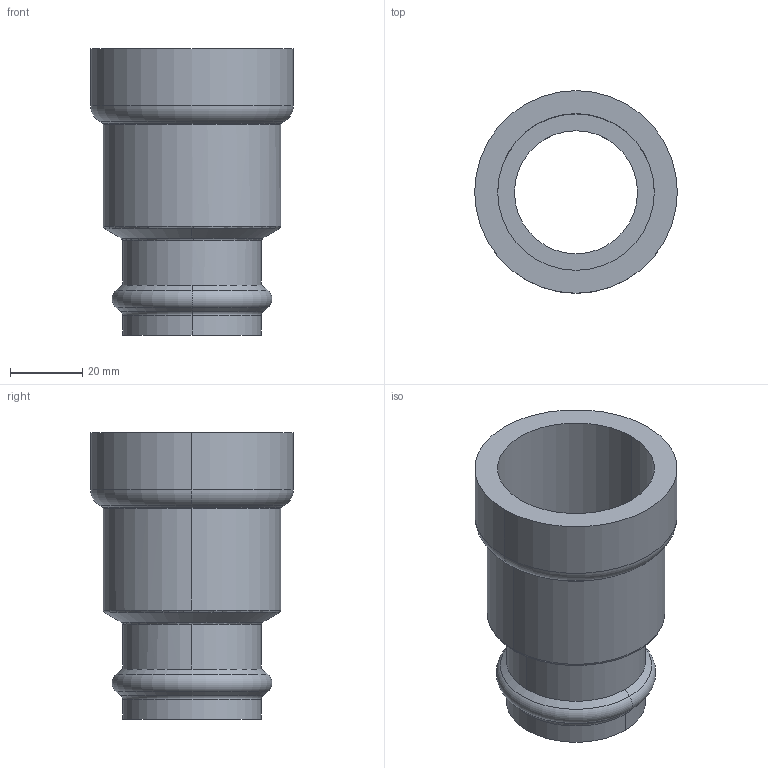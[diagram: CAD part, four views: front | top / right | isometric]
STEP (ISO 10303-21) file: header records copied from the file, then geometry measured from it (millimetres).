
FILE_DESCRIPTION(('Creo Elements/Direct Modeling STEP Export'),'2;1');
FILE_NAME('C9440_1-1-4_35.stp','2020-07-20T11:30:14',(''),(''),'PTC Creo Elements/Direct Modeling STEP processor for AP214 (Solid Model)','PTC Creo Elements/Direct Modeling 19.0C 15-Aug-2015 (C) Parametric Technology GmbH','');
FILE_SCHEMA(('AUTOMOTIVE_DESIGN { 1 0 10303 214 1 1 1 1 }'));
Length unit declared in the file: millimetre
Products named in the file (2): C9440_1-1-4_35
Assembly tree (1 placements, depth 2):
  C9440_1-1-4_35
    C9440_1-1-4_35
Bounding box: 56 x 56 x 79.13 mm (x, y, z)
Volume: 40470.2 mm3; surface area: 24480.9 mm2
Topology: 1 solids, 1 shells, 38 faces, 93 edges, 59 vertices
Faces by surface type: cylinder 14, torus 12, cone 8, plane 4
Entity records: 1015 total; most frequent: ORIENTED_EDGE 186, DIRECTION 168, CARTESIAN_POINT 154, EDGE_CURVE 93, AXIS2_PLACEMENT_3D 73, VERTEX_POINT 59, EDGE_LOOP 42, FACE_OUTER_BOUND 38
